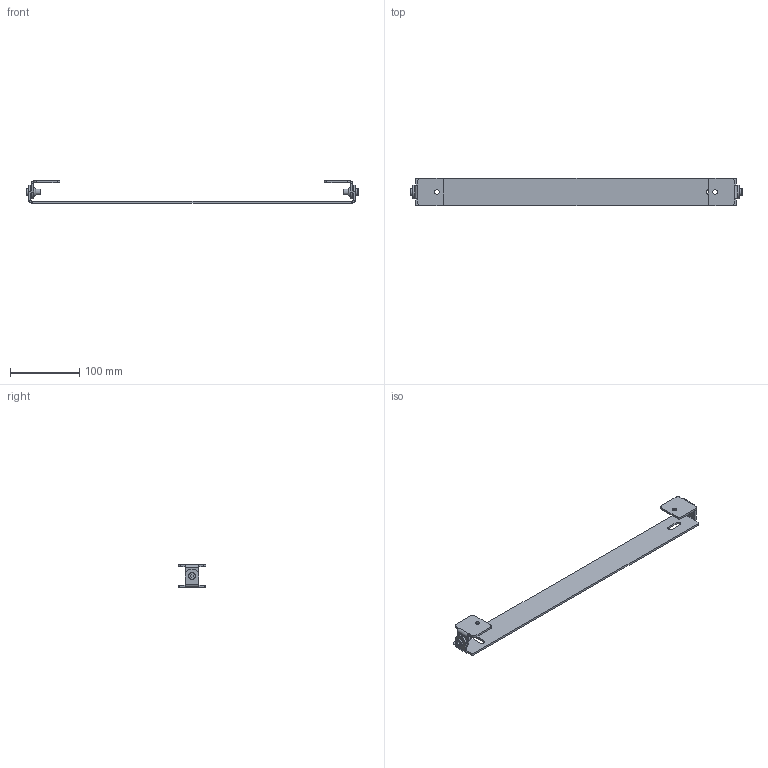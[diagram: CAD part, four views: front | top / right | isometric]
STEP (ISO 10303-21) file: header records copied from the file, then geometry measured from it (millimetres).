
FILE_DESCRIPTION(/* description */ (''),/* implementation_level */ '2;1');
FILE_NAME(/* name */ 'SH 50t.stp',/* time_stamp */ '2024-09-25T09:16:15+02:00',/* author */ ('d.streicher'),/* organization */ (''),/* preprocessor_version */ 'ST-DEVELOPER v20',/* originating_system */ 'Autodesk Inventor 2025',/* authorisation */ '');
FILE_SCHEMA (('AUTOMOTIVE_DESIGN { 1 0 10303 214 3 1 1 }'));
Length unit declared in the file: millimetre
Products named in the file (5): SH 50 gebaut; SH 20 L; Blindniete M6; SH 50; DIN 7984 - M6 x 16
Assembly tree (7 placements, depth 2):
  SH 50 gebaut
    SH 20 L  x2
    Blindniete M6  x2
    SH 50
    DIN 7984 - M6 x 16  x2
Bounding box: 478 x 40 x 32 mm (x, y, z)
Volume: 70463.2 mm3; surface area: 53466.5 mm2
Topology: 7 solids, 7 shells, 156 faces, 382 edges, 242 vertices
Faces by surface type: plane 96, cylinder 46, cone 8, torus 6
Full cylindrical faces by diameter (mm): 6 x4, 6.5 x4, 7.5 x2, 8.5 x4, 9 x2, 10 x2
Entity records: 3334 total; most frequent: DIRECTION 558, CARTESIAN_POINT 551, ORIENTED_EDGE 514, EDGE_CURVE 257, AXIS2_PLACEMENT_3D 191, LINE 176, VECTOR 176, VERTEX_POINT 163
